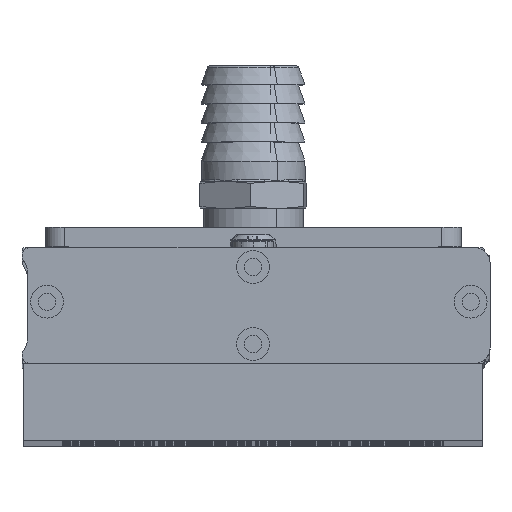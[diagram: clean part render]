
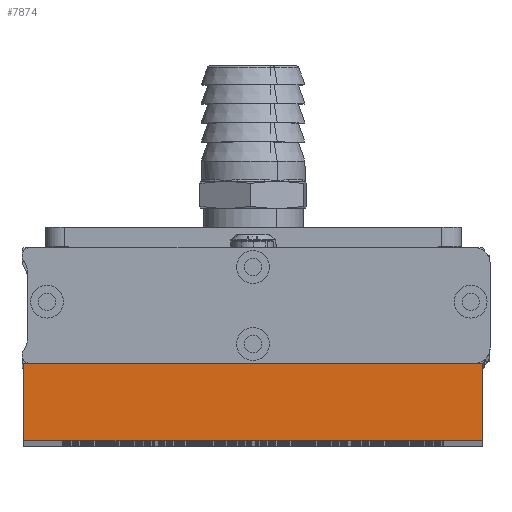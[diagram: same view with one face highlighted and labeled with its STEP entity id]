
A CAD part, top view. The second image highlights one B-rep face of the part: STEP entity #7874.
In plain terms, the highlighted planar face has unit normal (0, 0, 1).
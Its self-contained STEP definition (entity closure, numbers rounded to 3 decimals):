
#253 = EDGE_CURVE ( 'NONE', #18018, #2693, #20614, .T. ) ;
#925 = ORIENTED_EDGE ( 'NONE', *, *, #21337, .T. ) ;
#1703 = ORIENTED_EDGE ( 'NONE', *, *, #24725, .F. ) ;
#1755 = DIRECTION ( 'NONE',  ( 0., 1., 0. ) ) ;
#2088 = VECTOR ( 'NONE', #15660, 1000. ) ;
#2105 = VERTEX_POINT ( 'NONE', #10512 ) ;
#2693 = VERTEX_POINT ( 'NONE', #23936 ) ;
#3158 = EDGE_LOOP ( 'NONE', ( #13034, #1703, #9784, #925 ) ) ;
#3766 = VECTOR ( 'NONE', #13335, 1000. ) ;
#4111 = FACE_OUTER_BOUND ( 'NONE', #3158, .T. ) ;
#4903 = CARTESIAN_POINT ( 'NONE',  ( -82.6, -51.3, 427. ) ) ;
#5185 = AXIS2_PLACEMENT_3D ( 'NONE', #14434, #22905, #1755 ) ;
#6914 = EDGE_CURVE ( 'NONE', #7579, #2105, #24210, .T. ) ;
#7492 = CARTESIAN_POINT ( 'NONE',  ( -82.6, -51.3, 427. ) ) ;
#7579 = VERTEX_POINT ( 'NONE', #10981 ) ;
#7874 = ADVANCED_FACE ( 'NONE', ( #4111 ), #11895, .F. ) ;
#9092 = DIRECTION ( 'NONE',  ( 0., -1., 0. ) ) ;
#9784 = ORIENTED_EDGE ( 'NONE', *, *, #253, .F. ) ;
#10512 = CARTESIAN_POINT ( 'NONE',  ( 36.4, -71.3, 427. ) ) ;
#10981 = CARTESIAN_POINT ( 'NONE',  ( -82.6, -71.3, 427. ) ) ;
#11895 = PLANE ( 'NONE',  #5185 ) ;
#12772 = VECTOR ( 'NONE', #12804, 1000. ) ;
#12804 = DIRECTION ( 'NONE',  ( 1., 0., 0. ) ) ;
#13034 = ORIENTED_EDGE ( 'NONE', *, *, #6914, .T. ) ;
#13335 = DIRECTION ( 'NONE',  ( 1., 0., 0. ) ) ;
#14434 = CARTESIAN_POINT ( 'NONE',  ( -82.6, -51.3, 427. ) ) ;
#15660 = DIRECTION ( 'NONE',  ( 0., -1., 0. ) ) ;
#17199 = CARTESIAN_POINT ( 'NONE',  ( 36.4, -71.3, 427. ) ) ;
#18018 = VERTEX_POINT ( 'NONE', #7492 ) ;
#19627 = VECTOR ( 'NONE', #9092, 1000. ) ;
#20614 = LINE ( 'NONE', #24050, #3766 ) ;
#21337 = EDGE_CURVE ( 'NONE', #18018, #7579, #23617, .T. ) ;
#22905 = DIRECTION ( 'NONE',  ( 0., 0., -1. ) ) ;
#23617 = LINE ( 'NONE', #4903, #2088 ) ;
#23936 = CARTESIAN_POINT ( 'NONE',  ( 36.4, -51.3, 427. ) ) ;
#24050 = CARTESIAN_POINT ( 'NONE',  ( 36.4, -51.3, 427. ) ) ;
#24210 = LINE ( 'NONE', #17199, #12772 ) ;
#24725 = EDGE_CURVE ( 'NONE', #2693, #2105, #24946, .T. ) ;
#24946 = LINE ( 'NONE', #25617, #19627 ) ;
#25617 = CARTESIAN_POINT ( 'NONE',  ( 36.4, -51.3, 427. ) ) ;
